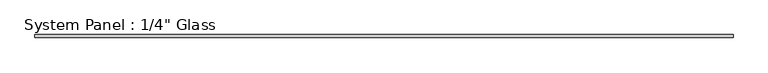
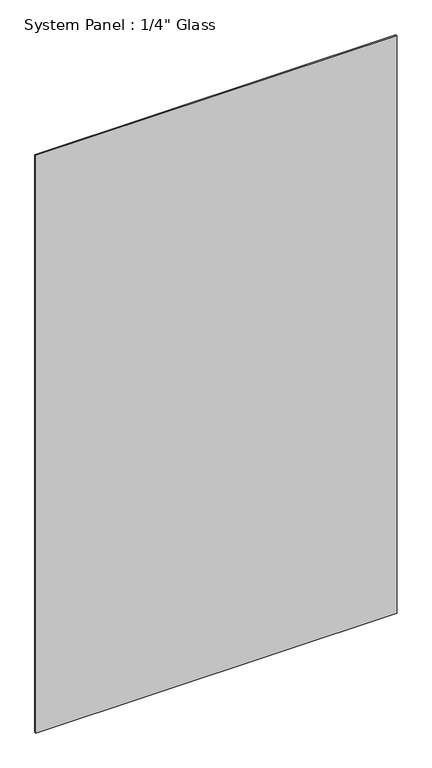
"""IFC4 building model written with IfcOpenShell, lengths in millimetres: plate geometry."""

import ifcopenshell
import ifcopenshell.guid

model = None  # the IFC model being written
_history = None  # IfcOwnerHistory: only IFC2X3 demands one
_inside = {}  # id of a spatial element -> (the spatial element, [elements in it])
_under = {}  # id of a project, library or spatial element -> (it, [spatial elements below it])
_declared = {}  # id of a project -> (the project, [libraries it declares])
_typed = {}  # id of a type object -> (the type object, [elements of that type])
_made_of = {}  # id of a material, layer set ... -> (it, [elements and type objects made of it])


def new_model(schema):
    """Start an empty IFC model of exactly this schema.

    Asked for "IFC4X3", IfcOpenShell would pick the latest addendum, in which some entities
    have other attributes; the version numbers below select the first issue.
    IFC2X3 requires an IfcOwnerHistory on every rooted entity: one is made here for all.
    """
    global model, _history
    if schema == "IFC4X3":
        model = ifcopenshell.file(schema_version=(4, 3, 0, 0))
    else:
        model = ifcopenshell.file(schema=schema)
    _inside.clear()
    _under.clear()
    _declared.clear()
    _typed.clear()
    _made_of.clear()
    _history = None
    if model.schema == "IFC2X3":
        org = make("IfcOrganization", Name="unknown")
        user = make(
            "IfcPersonAndOrganization",
            ThePerson=make("IfcPerson", FamilyName="unknown"),
            TheOrganization=org,
        )
        app = make(
            "IfcApplication",
            ApplicationDeveloper=org,
            Version="unknown",
            ApplicationFullName="unknown",
            ApplicationIdentifier="unknown",
        )
        _history = make(
            "IfcOwnerHistory",
            OwningUser=user,
            OwningApplication=app,
            ChangeAction="ADDED",
            CreationDate=0,
        )
    return model


def make(cls, **values):
    """One entity of the class cls with the attributes given. An attribute that is None is left unset."""
    return model.create_entity(
        cls, **{name: value for name, value in values.items() if value is not None}
    )


def rooted(cls, **values):
    """An entity with a GlobalId (a new one), such as an element, a storey or a relation."""
    return make(cls, GlobalId=ifcopenshell.guid.new(), OwnerHistory=_history, **values)


def si_unit(unit_type, name, prefix=None):
    """IfcSIUnit, for example si_unit("LENGTHUNIT", "METRE", prefix="MILLI")."""
    return make("IfcSIUnit", UnitType=unit_type, Prefix=prefix, Name=name)


def assignment(units):
    """IfcUnitAssignment: the units of a project."""
    return None if units is None else make("IfcUnitAssignment", Units=units)


def point(xyz):
    """IfcCartesianPoint."""
    return None if xyz is None else make("IfcCartesianPoint", Coordinates=xyz)


def direction(xyz):
    """IfcDirection."""
    return None if xyz is None else make("IfcDirection", DirectionRatios=xyz)


def frame(location, z_axis=None, x_axis=None):
    """IfcAxis2Placement3D, a coordinate frame: its origin and axes. An axis left out is left unset."""
    return make(
        "IfcAxis2Placement3D",
        Location=point(location),
        Axis=direction(z_axis),
        RefDirection=direction(x_axis),
    )


def origin():
    """The frame at (0, 0, 0) with its axes left unset."""
    return frame((0.0, 0.0, 0.0))


def origin_with_axes():
    """The frame at (0, 0, 0) with the z axis (0, 0, 1) and the x axis (1, 0, 0) written out."""
    return frame((0.0, 0.0, 0.0), z_axis=(0.0, 0.0, 1.0), x_axis=(1.0, 0.0, 0.0))


def place(relative_to, where):
    """IfcLocalPlacement: puts the frame where relative to a parent placement (None: the world)."""
    return make(
        "IfcLocalPlacement", PlacementRelTo=relative_to, RelativePlacement=where
    )


def context(
    kind, dimensions, precision=None, world=None, true_north=None, identifier=None
):
    """IfcGeometricRepresentationContext, for example the 3D "Model" context."""
    return make(
        "IfcGeometricRepresentationContext",
        ContextIdentifier=identifier,
        ContextType=kind,
        CoordinateSpaceDimension=dimensions,
        Precision=precision,
        WorldCoordinateSystem=world,
        TrueNorth=true_north,
    )


def project(units=None, contexts=None):
    """IfcProject with its units and contexts."""
    return rooted(
        "IfcProject",
        Name="project",
        RepresentationContexts=contexts,
        UnitsInContext=assignment(units),
    )


def spatial(cls, under=None, at=None, **own):
    """A site, building, storey or space (cls), placed at a placement, below another one or the project."""
    s = rooted(cls, ObjectPlacement=at, **own)
    if under is not None:
        _under.setdefault(under.id(), (under, []))[1].append(s)
    return s


def polyline(points):
    """IfcPolyline through the points."""
    return make("IfcPolyline", Points=[point(p) for p in points])


def outline(outer, holes=None, kind="AREA"):
    """IfcArbitraryClosedProfileDef: a profile drawn as a closed curve; with holes, ...WithVoids."""
    if holes is None:
        return make("IfcArbitraryClosedProfileDef", ProfileType=kind, OuterCurve=outer)
    return make(
        "IfcArbitraryProfileDefWithVoids",
        ProfileType=kind,
        OuterCurve=outer,
        InnerCurves=holes,
    )


def extrude(swept, where, along, depth):
    """IfcExtrudedAreaSolid: the profile swept, set in the frame where, extruded along a direction by depth."""
    return make(
        "IfcExtrudedAreaSolid",
        SweptArea=swept,
        Position=where,
        ExtrudedDirection=direction(along),
        Depth=depth,
    )


def shape(context_of_items, identifier, shape_type, items):
    """IfcShapeRepresentation: the items that make up one representation, for example the "Body"."""
    return make(
        "IfcShapeRepresentation",
        ContextOfItems=context_of_items,
        RepresentationIdentifier=identifier,
        RepresentationType=shape_type,
        Items=items,
    )


def source(mapping_origin, context_of_items, identifier, shape_type, items):
    """IfcRepresentationMap: a shape defined once, which mapped items show again and again."""
    return make(
        "IfcRepresentationMap",
        MappingOrigin=mapping_origin,
        MappedRepresentation=shape(context_of_items, identifier, shape_type, items),
    )


def transform(
    local_origin,
    x_axis=None,
    y_axis=None,
    z_axis=None,
    scale=None,
    scale2=None,
    scale3=None,
    uniform=True,
):
    """IfcCartesianTransformationOperator3D, or its non-uniform kind. x_axis, y_axis, z_axis: its Axis1, 2, 3."""
    if uniform:
        return make(
            "IfcCartesianTransformationOperator3D",
            Axis1=direction(x_axis),
            Axis2=direction(y_axis),
            LocalOrigin=point(local_origin),
            Scale=scale,
            Axis3=direction(z_axis),
        )
    return make(
        "IfcCartesianTransformationOperator3DnonUniform",
        Axis1=direction(x_axis),
        Axis2=direction(y_axis),
        LocalOrigin=point(local_origin),
        Scale=scale,
        Axis3=direction(z_axis),
        Scale2=scale2,
        Scale3=scale3,
    )


def mapped(mapping_source, mapping_target):
    """IfcMappedItem: shows the shape of a source again, moved by a transform."""
    return make(
        "IfcMappedItem", MappingSource=mapping_source, MappingTarget=mapping_target
    )


def made_of(thing, what):
    """Note that an element or type object is made of a material, layer set ...; save() writes the relation."""
    if what is not None:
        _made_of.setdefault(what.id(), (what, []))[1].append(thing)
    return thing


def element(
    cls,
    number,
    at=None,
    inside=None,
    cuts=None,
    type_object=None,
    material=None,
    context=None,
    identifier="Body",
    shape_type=None,
    held_by="IfcProductDefinitionShape",
    body=None,
    shapes=None,
    **own,
):
    """One element of the class cls, such as IfcWall. Its Tag is "e" and its number.

    at: its placement. inside: the storey or other place that contains it. cuts: it is an
    opening in that element (IfcRelVoidsElement). A single representation is given by context,
    identifier, shape_type and body (its items); several are given by shapes. held_by: the class
    of the entity that holds the representations. save() writes the other relations.
    """
    e = rooted(cls, Tag="e%d" % number, ObjectPlacement=at, **own)
    if body is not None:
        shapes = [shape(context, identifier, shape_type, body)]
    if shapes is not None:
        e.Representation = make(held_by, Representations=shapes)
    if inside is not None:
        _inside.setdefault(inside.id(), (inside, []))[1].append(e)
    if cuts is not None:
        rooted(
            "IfcRelVoidsElement", RelatingBuildingElement=cuts, RelatedOpeningElement=e
        )
    if type_object is not None:
        _typed.setdefault(type_object.id(), (type_object, []))[1].append(e)
    return made_of(e, material)


def aggregate(whole, parts):
    """IfcRelAggregates: a whole, such as a stair, and the parts it consists of."""
    return rooted("IfcRelAggregates", RelatingObject=whole, RelatedObjects=parts)


def save(model, path):
    """Write the relations noted so far, then the file.

    IfcRelAggregates (storeys below a building ...), IfcRelContainedInSpatialStructure (elements
    in a storey), IfcRelDefinesByType, IfcRelAssociatesMaterial and IfcRelDeclares: one each for
    every whole, place, type object, material and project.
    """
    for whole, parts in _under.values():
        aggregate(whole, parts)
    for where, things in _inside.values():
        rooted(
            "IfcRelContainedInSpatialStructure",
            RelatedElements=things,
            RelatingStructure=where,
        )
    for kind, things in _typed.values():
        rooted("IfcRelDefinesByType", RelatedObjects=things, RelatingType=kind)
    for what, things in _made_of.values():
        rooted("IfcRelAssociatesMaterial", RelatedObjects=things, RelatingMaterial=what)
    for by, libraries in _declared.values():
        rooted("IfcRelDeclares", RelatingContext=by, RelatedDefinitions=libraries)
    model.write(path)


def plate_88df3e37(model_context):
    return source(origin(), model_context, "Body", "SweptSolid", [
        extrude(outline(polyline([(736.4736594, -3.175), (-736.4736594, -3.175), (-736.4736594, 3.175), (736.4736594, 3.175), (736.4736594, -3.175)])), origin_with_axes(), (0.0, 0.0, 1.0), 2489.2),
    ])


if __name__ == "__main__":
    model = new_model("IFC4")
    model_context = context("Model", 3, world=origin())
    ifc_project = project(units=[si_unit("LENGTHUNIT", "METRE", prefix="MILLI")], contexts=[model_context])
    site = spatial("IfcSite", under=ifc_project)
    building = spatial("IfcBuilding", under=site)
    placement = place(None, origin())
    plate_shape = plate_88df3e37(model_context)
    element("IfcPlate", 1, ObjectType="System Panel : 1/4\" Glass", at=placement, inside=building, context=model_context, shape_type="MappedRepresentation", body=[
        mapped(plate_shape, transform((0.0, 0.0, 0.0), x_axis=(1.0, 0.0, 0.0), y_axis=(0.0, 1.0, 0.0), z_axis=(0.0, 0.0, 1.0))),
    ])
    save(model, "model.ifc")
